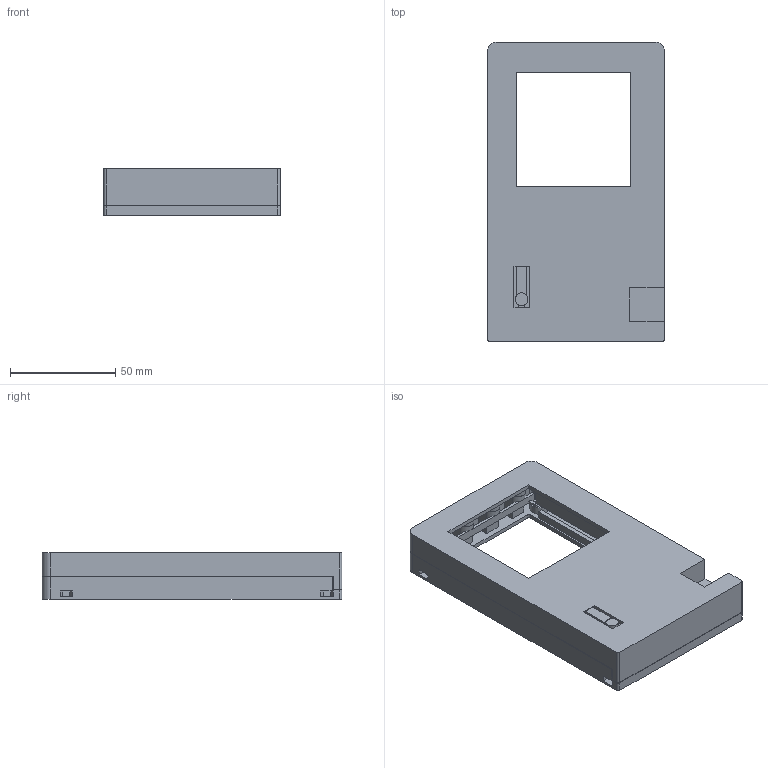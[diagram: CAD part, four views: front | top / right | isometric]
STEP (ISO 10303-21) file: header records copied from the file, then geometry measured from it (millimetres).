
FILE_DESCRIPTION(('FreeCAD Model'),'2;1');
FILE_NAME('Open CASCADE Shape Model','2026-11-05T07:51:27',('FreeCAD'),( 'FreeCAD'),'Open CASCADE STEP processor 7.8','FreeCAD','Unknown');
FILE_SCHEMA(('AUTOMOTIVE_DESIGN { 1 0 10303 214 1 1 1 1 }'));
Length unit declared in the file: millimetre
Products named in the file (1): Open CASCADE STEP translator 7.8 3
Bounding box: 84 x 142.4 x 22.2 mm (x, y, z)
Volume: 66490.7 mm3; surface area: 65747.8 mm2
Topology: 2 solids, 2 shells, 425 faces, 1211 edges, 813 vertices
Faces by surface type: plane 351, cylinder 74
Full cylindrical faces by diameter (mm): 3.4 x8, 3.6 x1, 5.4 x16, 6 x1, 7.4 x8
Entity records: 13828 total; most frequent: CARTESIAN_POINT 2450, ORIENTED_EDGE 2422, DIRECTION 2250, EDGE_CURVE 1211, LINE 1024, VECTOR 1024, VERTEX_POINT 813, AXIS2_PLACEMENT_3D 613
